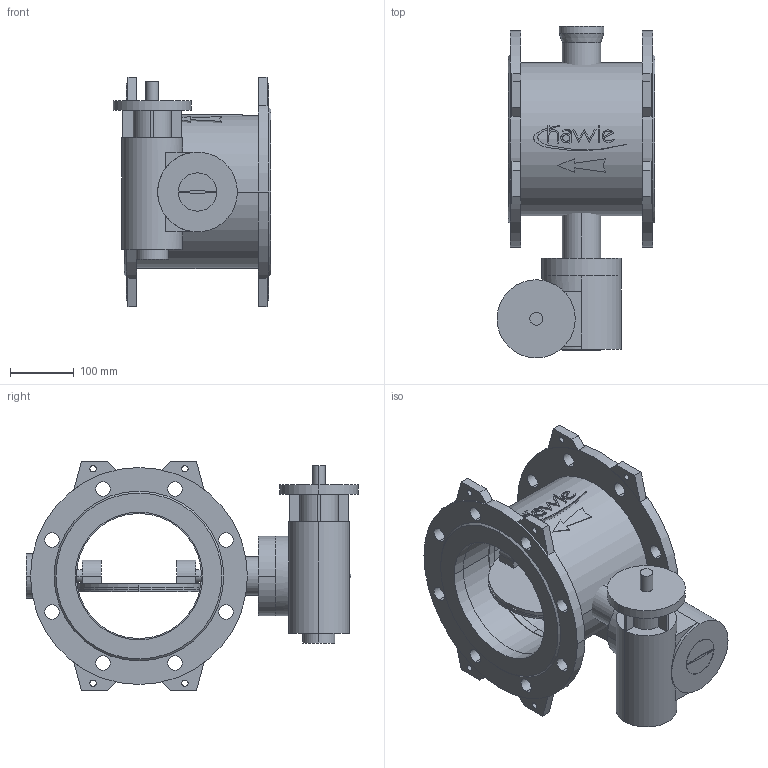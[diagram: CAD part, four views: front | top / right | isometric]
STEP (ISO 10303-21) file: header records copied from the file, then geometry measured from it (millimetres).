
FILE_DESCRIPTION(('STEP AP214'),'1');
FILE_NAME('S:/EK/USER/CAT6/3DHomepage_27-04-2012/neu_08-01-2013/9881K/9881K_PN10_DN200.STP','2013-02-26T15:30:20',(' '),(' '),'Spatial InterOp 3D',' ',' ');
FILE_SCHEMA(('automotive_design'));
Length unit declared in the file: millimetre
Products named in the file (44): 3D-Objekt
Bounding box: 247.25 x 520.25 x 360 mm (x, y, z)
Volume: 8965360.6 mm3; surface area: 1050433.1 mm2
Topology: 44 solids, 44 shells, 348 faces, 767 edges, 510 vertices
Faces by surface type: plane 194, cylinder 148, cone 6
Entity records: 13661 total; most frequent: DIRECTION 1863, CARTESIAN_POINT 1743, ORIENTED_EDGE 1534, EDGE_CURVE 767, AXIS2_PLACEMENT_3D 706, VERTEX_POINT 510, LINE 451, VECTOR 451
